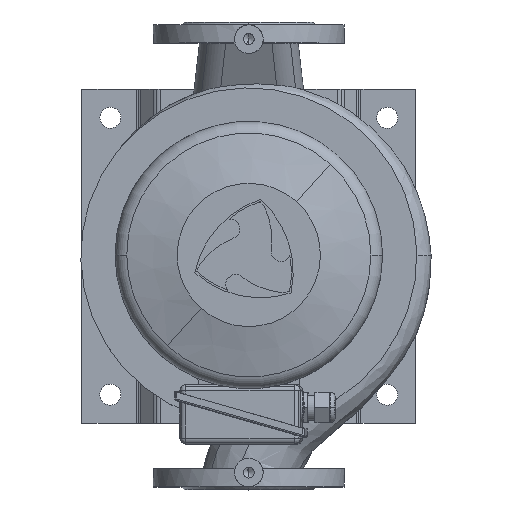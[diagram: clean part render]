
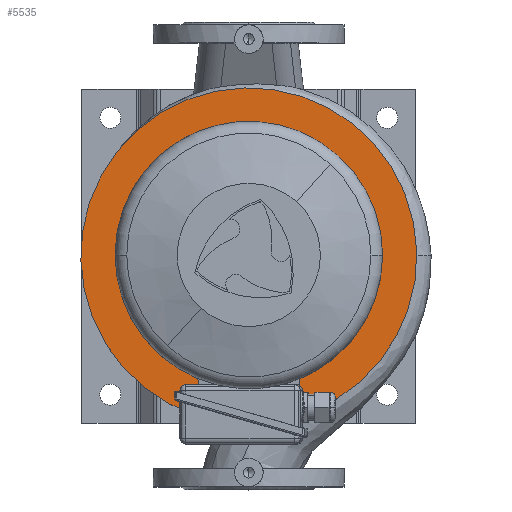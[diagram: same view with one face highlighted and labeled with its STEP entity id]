
A CAD part, top view. The second image highlights one B-rep face of the part: STEP entity #5535.
In plain terms, the highlighted planar face has unit normal (0, 0, 1) as drawn and (1, 0, 0) by its records, which use the part's own axes.
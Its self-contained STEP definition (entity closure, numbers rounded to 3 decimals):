
#5535=ADVANCED_FACE('',(#11009,#11010),#11011,.T.);
#5559=EDGE_CURVE('',#11050,#11051,#11052,.T.);
#5583=EDGE_CURVE('',#11094,#11095,#11096,.T.);
#5591=EDGE_CURVE('',#11104,#11107,#11108,.T.);
#5599=EDGE_CURVE('',#11116,#11119,#11120,.T.);
#5605=EDGE_CURVE('',#11123,#11095,#11128,.T.);
#5607=EDGE_CURVE('',#11130,#11107,#11131,.T.);
#5615=EDGE_CURVE('',#11142,#11138,#11143,.T.);
#5623=EDGE_CURVE('',#11153,#11149,#11154,.T.);
#5631=EDGE_CURVE('',#11160,#11163,#11164,.T.);
#5641=EDGE_CURVE('',#11174,#11104,#11177,.T.);
#5647=EDGE_CURVE('',#11182,#11116,#11185,.T.);
#5655=EDGE_CURVE('',#11193,#11188,#11196,.T.);
#5657=EDGE_CURVE('',#11119,#11138,#11198,.T.);
#5661=EDGE_CURVE('',#11188,#11149,#11202,.T.);
#5665=EDGE_CURVE('',#11163,#11094,#11206,.T.);
#5669=EDGE_CURVE('',#11130,#11182,#11210,.T.);
#5673=EDGE_CURVE('',#11142,#11193,#11214,.T.);
#5675=EDGE_CURVE('',#11123,#11174,#11216,.T.);
#5679=EDGE_CURVE('',#11051,#11050,#11220,.T.);
#5681=EDGE_CURVE('',#11153,#11160,#11222,.T.);
#11009=FACE_OUTER_BOUND('',#19760,.T.);
#11010=FACE_BOUND('',#19761,.T.);
#11011=PLANE('',#19762);
#11050=VERTEX_POINT('',#19803);
#11051=VERTEX_POINT('',#19804);
#11052=CIRCLE('',#19805,176.0);
#11094=VERTEX_POINT('',#19859);
#11095=VERTEX_POINT('',#19860);
#11096=CIRCLE('',#19861,117.907);
#11104=VERTEX_POINT('',#19881);
#11107=VERTEX_POINT('',#19894);
#11108=CIRCLE('',#19895,117.907);
#11116=VERTEX_POINT('',#19915);
#11119=VERTEX_POINT('',#19928);
#11120=CIRCLE('',#19929,117.907);
#11123=VERTEX_POINT('',#19933);
#11128=LINE('',#19950,#19951);
#11130=VERTEX_POINT('',#19954);
#11131=LINE('',#19955,#19956);
#11138=VERTEX_POINT('',#19976);
#11142=VERTEX_POINT('',#19990);
#11143=LINE('',#19991,#19992);
#11149=VERTEX_POINT('',#20011);
#11153=VERTEX_POINT('',#20025);
#11154=LINE('',#20026,#20027);
#11160=VERTEX_POINT('',#20046);
#11163=VERTEX_POINT('',#20059);
#11164=LINE('',#20060,#20061);
#11174=VERTEX_POINT('',#20086);
#11177=LINE('',#20099,#20100);
#11182=VERTEX_POINT('',#20108);
#11185=LINE('',#20121,#20122);
#11188=VERTEX_POINT('',#20126);
#11193=VERTEX_POINT('',#20143);
#11196=LINE('',#20156,#20157);
#11198=CIRCLE('',#20160,117.907);
#11202=CIRCLE('',#20166,117.907);
#11206=CIRCLE('',#20172,117.907);
#11210=CIRCLE('',#20178,128.0);
#11214=CIRCLE('',#20184,128.0);
#11216=CIRCLE('',#20187,128.0);
#11220=CIRCLE('',#20193,176.0);
#11222=CIRCLE('',#20196,128.0);
#19760=EDGE_LOOP('',(#32678,#32679));
#19761=EDGE_LOOP('',(#32680,#32681,#32682,#32683,#32684,#32685,#32686,#32687,#32688,#32689,#32690,#32691,#32692,#32693,#32694,#32695,#32696,#32697));
#19762=AXIS2_PLACEMENT_3D('',#32698,#32699,#32700);
#19803=CARTESIAN_POINT('',(19.0,176.0,0.0));
#19804=CARTESIAN_POINT('',(19.0,-176.0,0.));
#19805=AXIS2_PLACEMENT_3D('',#32800,#32801,#32802);
#19859=CARTESIAN_POINT('',(19.0,-117.907,0.));
#19860=CARTESIAN_POINT('',(19.0,-105.762,-52.12));
#19861=AXIS2_PLACEMENT_3D('',#32836,#32837,#32838);
#19881=CARTESIAN_POINT('',(19.0,-52.12,-105.762));
#19894=CARTESIAN_POINT('',(19.0,52.12,-105.762));
#19895=AXIS2_PLACEMENT_3D('',#32842,#32843,#32844);
#19915=CARTESIAN_POINT('',(19.0,105.762,-52.12));
#19928=CARTESIAN_POINT('',(19.0,117.907,0.));
#19929=AXIS2_PLACEMENT_3D('',#32848,#32849,#32850);
#19933=CARTESIAN_POINT('',(19.0,-115.686,-54.779));
#19950=CARTESIAN_POINT('',(19.0,-115.686,-54.779));
#19951=VECTOR('',#32852,1.0);
#19954=CARTESIAN_POINT('',(19.0,54.779,-115.686));
#19955=CARTESIAN_POINT('',(19.0,54.779,-115.686));
#19956=VECTOR('',#32853,1.0);
#19976=CARTESIAN_POINT('',(19.0,105.762,52.12));
#19990=CARTESIAN_POINT('',(19.0,115.686,54.779));
#19991=CARTESIAN_POINT('',(19.0,115.686,54.779));
#19992=VECTOR('',#32855,1.0);
#20011=CARTESIAN_POINT('',(19.0,-52.12,105.762));
#20025=CARTESIAN_POINT('',(19.0,-54.779,115.686));
#20026=CARTESIAN_POINT('',(19.0,-54.779,115.686));
#20027=VECTOR('',#32857,1.0);
#20046=CARTESIAN_POINT('',(19.0,-115.686,54.779));
#20059=CARTESIAN_POINT('',(19.0,-105.762,52.12));
#20060=CARTESIAN_POINT('',(19.0,-115.686,54.779));
#20061=VECTOR('',#32859,1.0);
#20086=CARTESIAN_POINT('',(19.0,-54.779,-115.686));
#20099=CARTESIAN_POINT('',(19.0,-54.779,-115.686));
#20100=VECTOR('',#32862,1.0);
#20108=CARTESIAN_POINT('',(19.0,115.686,-54.779));
#20121=CARTESIAN_POINT('',(19.0,115.686,-54.779));
#20122=VECTOR('',#32864,1.0);
#20126=CARTESIAN_POINT('',(19.0,52.12,105.762));
#20143=CARTESIAN_POINT('',(19.0,54.779,115.686));
#20156=CARTESIAN_POINT('',(19.0,54.779,115.686));
#20157=VECTOR('',#32866,1.0);
#20160=AXIS2_PLACEMENT_3D('',#32867,#32868,#32869);
#20166=AXIS2_PLACEMENT_3D('',#32873,#32874,#32875);
#20172=AXIS2_PLACEMENT_3D('',#32879,#32880,#32881);
#20178=AXIS2_PLACEMENT_3D('',#32885,#32886,#32887);
#20184=AXIS2_PLACEMENT_3D('',#32891,#32892,#32893);
#20187=AXIS2_PLACEMENT_3D('',#32894,#32895,#32896);
#20193=AXIS2_PLACEMENT_3D('',#32900,#32901,#32902);
#20196=AXIS2_PLACEMENT_3D('',#32903,#32904,#32905);
#32678=ORIENTED_EDGE('',*,*,#5559,.T.);
#32679=ORIENTED_EDGE('',*,*,#5679,.T.);
#32680=ORIENTED_EDGE('',*,*,#5681,.F.);
#32681=ORIENTED_EDGE('',*,*,#5623,.T.);
#32682=ORIENTED_EDGE('',*,*,#5661,.F.);
#32683=ORIENTED_EDGE('',*,*,#5655,.F.);
#32684=ORIENTED_EDGE('',*,*,#5673,.F.);
#32685=ORIENTED_EDGE('',*,*,#5615,.T.);
#32686=ORIENTED_EDGE('',*,*,#5657,.F.);
#32687=ORIENTED_EDGE('',*,*,#5599,.F.);
#32688=ORIENTED_EDGE('',*,*,#5647,.F.);
#32689=ORIENTED_EDGE('',*,*,#5669,.F.);
#32690=ORIENTED_EDGE('',*,*,#5607,.T.);
#32691=ORIENTED_EDGE('',*,*,#5591,.F.);
#32692=ORIENTED_EDGE('',*,*,#5641,.F.);
#32693=ORIENTED_EDGE('',*,*,#5675,.F.);
#32694=ORIENTED_EDGE('',*,*,#5605,.T.);
#32695=ORIENTED_EDGE('',*,*,#5583,.F.);
#32696=ORIENTED_EDGE('',*,*,#5665,.F.);
#32697=ORIENTED_EDGE('',*,*,#5631,.F.);
#32698=CARTESIAN_POINT('',(19.0,152.0,0.0));
#32699=DIRECTION('',(1.0,0.0,0.0));
#32700=DIRECTION('',(0.0,0.0,-1.0));
#32800=CARTESIAN_POINT('',(19.0,0.0,0.0));
#32801=DIRECTION('',(1.0,0.0,0.0));
#32802=DIRECTION('',(0.0,1.0,0.0));
#32836=CARTESIAN_POINT('',(19.0,0.0,0.0));
#32837=DIRECTION('',(1.0,0.0,0.0));
#32838=DIRECTION('',(0.0,1.0,0.0));
#32842=CARTESIAN_POINT('',(19.0,0.0,0.0));
#32843=DIRECTION('',(1.0,0.0,0.0));
#32844=DIRECTION('',(0.0,1.0,0.0));
#32848=CARTESIAN_POINT('',(19.0,0.0,0.0));
#32849=DIRECTION('',(1.0,0.0,0.0));
#32850=DIRECTION('',(0.0,1.0,0.0));
#32852=DIRECTION('',(0.,0.966,0.259));
#32853=DIRECTION('',(0.,-0.259,0.966));
#32855=DIRECTION('',(0.,-0.966,-0.259));
#32857=DIRECTION('',(0.,0.259,-0.966));
#32859=DIRECTION('',(0.,0.966,-0.259));
#32862=DIRECTION('',(0.,0.259,0.966));
#32864=DIRECTION('',(0.,-0.966,0.259));
#32866=DIRECTION('',(0.,-0.259,-0.966));
#32867=CARTESIAN_POINT('',(19.0,0.0,0.0));
#32868=DIRECTION('',(1.0,0.0,0.0));
#32869=DIRECTION('',(0.0,1.0,0.0));
#32873=CARTESIAN_POINT('',(19.0,0.0,0.0));
#32874=DIRECTION('',(1.0,0.0,0.0));
#32875=DIRECTION('',(0.0,1.0,0.0));
#32879=CARTESIAN_POINT('',(19.0,0.0,0.0));
#32880=DIRECTION('',(1.0,0.0,0.0));
#32881=DIRECTION('',(0.0,1.0,0.0));
#32885=CARTESIAN_POINT('',(19.0,0.0,0.0));
#32886=DIRECTION('',(1.0,0.0,0.0));
#32887=DIRECTION('',(0.0,1.0,0.0));
#32891=CARTESIAN_POINT('',(19.0,0.0,0.0));
#32892=DIRECTION('',(1.0,0.0,0.0));
#32893=DIRECTION('',(0.0,1.0,0.0));
#32894=CARTESIAN_POINT('',(19.0,0.0,0.0));
#32895=DIRECTION('',(1.0,0.0,0.0));
#32896=DIRECTION('',(0.0,1.0,0.0));
#32900=CARTESIAN_POINT('',(19.0,0.0,0.0));
#32901=DIRECTION('',(1.0,0.0,0.0));
#32902=DIRECTION('',(0.0,1.0,0.0));
#32903=CARTESIAN_POINT('',(19.0,0.0,0.0));
#32904=DIRECTION('',(1.0,0.0,0.0));
#32905=DIRECTION('',(0.0,1.0,0.0));
